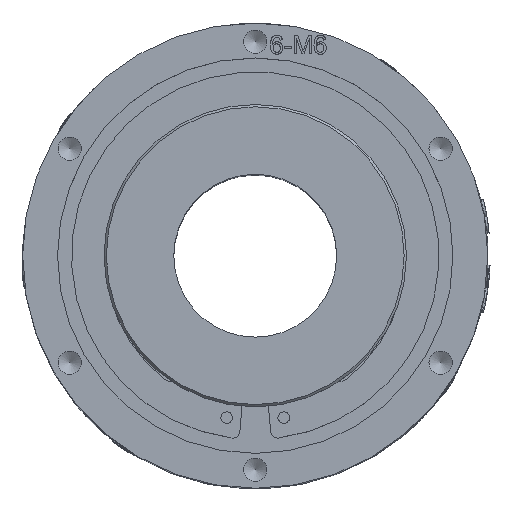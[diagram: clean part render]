
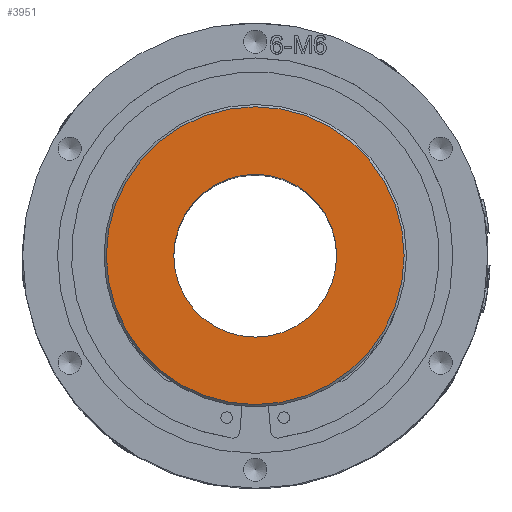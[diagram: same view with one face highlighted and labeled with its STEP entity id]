
A CAD part, top view. The second image highlights one B-rep face of the part: STEP entity #3951.
In plain terms, the highlighted planar face has unit normal (0, 0, 1).
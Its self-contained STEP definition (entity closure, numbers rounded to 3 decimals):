
#447=PLANE('',#25081);
#3443=FACE_BOUND('',#6664,.T.);
#3444=FACE_BOUND('',#6665,.T.);
#3951=ADVANCED_FACE('',(#3443,#3444),#447,.T.);
#6664=EDGE_LOOP('',(#13074));
#6665=EDGE_LOOP('',(#13075));
#13074=ORIENTED_EDGE('',*,*,#22054,.T.);
#13075=ORIENTED_EDGE('',*,*,#20864,.F.);
#18432=VERTEX_POINT('',#28525);
#19355=VERTEX_POINT('',#49746);
#20864=EDGE_CURVE('',#18432,#18432,#24438,.T.);
#22054=EDGE_CURVE('',#19355,#19355,#24553,.T.);
#24438=CIRCLE('',#24631,17.5);
#24553=CIRCLE('',#25079,32.);
#24631=AXIS2_PLACEMENT_3D('',#28524,#25513,#25514);
#25079=AXIS2_PLACEMENT_3D('',#49745,#26719,#26720);
#25081=AXIS2_PLACEMENT_3D('',#49748,#26723,#26724);
#25513=DIRECTION('',(0.,0.,1.));
#25514=DIRECTION('',(1.,0.,0.));
#26719=DIRECTION('',(0.,0.,1.));
#26720=DIRECTION('',(1.,0.,0.));
#26723=DIRECTION('',(0.,0.,1.));
#26724=DIRECTION('',(1.,0.,0.));
#28524=CARTESIAN_POINT('',(0.,0.,109.5));
#28525=CARTESIAN_POINT('',(17.5,0.,109.5));
#49745=CARTESIAN_POINT('',(0.,0.,109.5));
#49746=CARTESIAN_POINT('',(32.,0.,109.5));
#49748=CARTESIAN_POINT('',(0.,0.,109.5));
